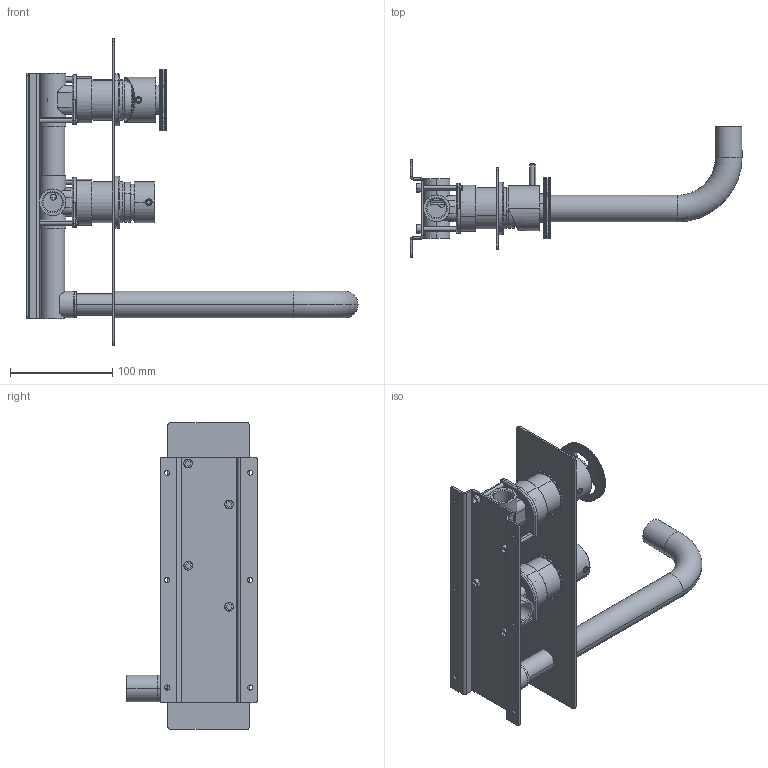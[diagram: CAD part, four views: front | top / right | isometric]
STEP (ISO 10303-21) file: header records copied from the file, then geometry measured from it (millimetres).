
FILE_DESCRIPTION (( 'STEP AP203' ), '1' );
FILE_NAME ('TBN82.STEP', '2023-11-27T10:22:45', ( '' ), ( '' ), 'SwSTEP 2.0', 'SolidWorks 2021', '' );
FILE_SCHEMA (( 'CONFIG_CONTROL_DESIGN' ));
Length unit declared in the file: millimetre
Products named in the file (34): CAPP_0; C12.00.0017; C24.1965.00.0; C10.00.0015; C23.1878.01; C24.1464.00.1; C25.1964.00.0; C47.00.0015; C24.1966.00.0; C24.1992.00.0; AS757_00; C25.1173.00.0; TUBO DI GIUNZIONE VASCA E DOCCIA; IST80; AS559_00; C24.2119.00.0; C12.00.0035; C24.1696.00.0; 1000; C10.00.0011; C11.14.0007; EROGATORE VASCA E DOCCIA; TBN82; 1174G; ADATTATORE MEZZO; C11.14.0009; C24.1993.00.0; VITETC5x40; C39.00.0033; C25.2662.00; C47.00.0023.01; 1174; C12.00.0008; 405-40CPA GEDA
Assembly tree (43 placements, depth 4):
  TBN82
    IST80
      405-40CPA GEDA
        1174G
        EROGATORE VASCA E DOCCIA
        TUBO DI GIUNZIONE VASCA E DOCCIA
        1174
        ADATTATORE MEZZO
      C24.1966.00.0
      C25.1964.00.0
      C24.1965.00.0  x2
      C12.00.0008
      C12.00.0017  x2
      1000  x2
      C47.00.0015  x2
      C10.00.0015
      C10.00.0011
      VITETC5x40  x4
      C24.1993.00.0
      CAPP_0
    AS559_00
      C24.1696.00.0
      C24.1464.00.1
    AS757_00
      C24.1992.00.0
      C25.1173.00.0
      C23.1878.01
      C11.14.0009
      C11.14.0007
      C47.00.0023.01
    C47.00.0023.01
    C39.00.0033
    C25.2662.00
    C12.00.0035  x2
    C24.2119.00.0  x2
Bounding box: 324.5 x 127.5 x 300 mm (x, y, z)
Volume: 483810.7 mm3; surface area: 312889.9 mm2
Topology: 42 solids, 43 shells, 2090 faces, 5282 edges, 3372 vertices
Faces by surface type: plane 995, cylinder 773, cone 194, torus 116, bspline 12
Entity records: 58773 total; most frequent: CARTESIAN_POINT 11113, DIRECTION 9587, ORIENTED_EDGE 8906, EDGE_CURVE 4453, AXIS2_PLACEMENT_3D 3472, VERTEX_POINT 2854, VECTOR 2643, LINE 2643
